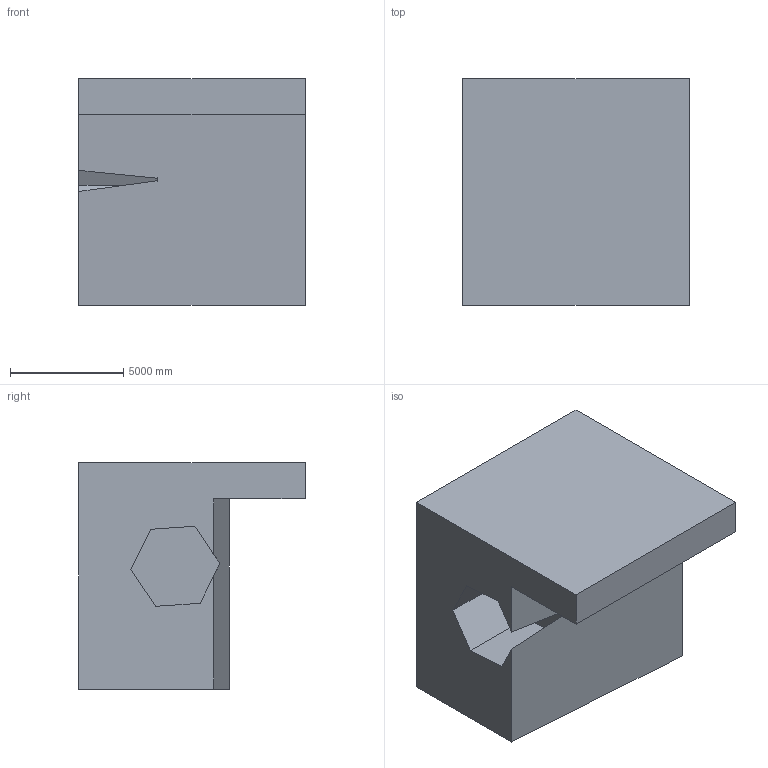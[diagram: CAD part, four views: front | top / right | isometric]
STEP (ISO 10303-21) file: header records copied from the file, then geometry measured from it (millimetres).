
FILE_DESCRIPTION (( 'STEP AP203' ), '1' );
FILE_NAME ('28.STEP', '2022-08-31T11:12:42', ( 'user' ), ( '' ), 'SwSTEP 2.0', 'SolidWorks 2021', '' );
FILE_SCHEMA (( 'CONFIG_CONTROL_DESIGN' ));
Length unit declared in the file: centimetre
Products named in the file (1): 28
Bounding box: 10000 x 10000 x 10000 mm (x, y, z)
Volume: 654360435655.8 mm3; surface area: 575331420.9 mm2
Topology: 1 solids, 1 shells, 15 faces, 39 edges, 26 vertices
Faces by surface type: plane 15
Entity records: 530 total; most frequent: CARTESIAN_POINT 81, ORIENTED_EDGE 78, DIRECTION 71, VECTOR 39, LINE 39, EDGE_CURVE 39, VERTEX_POINT 26, AXIS2_PLACEMENT_3D 16
